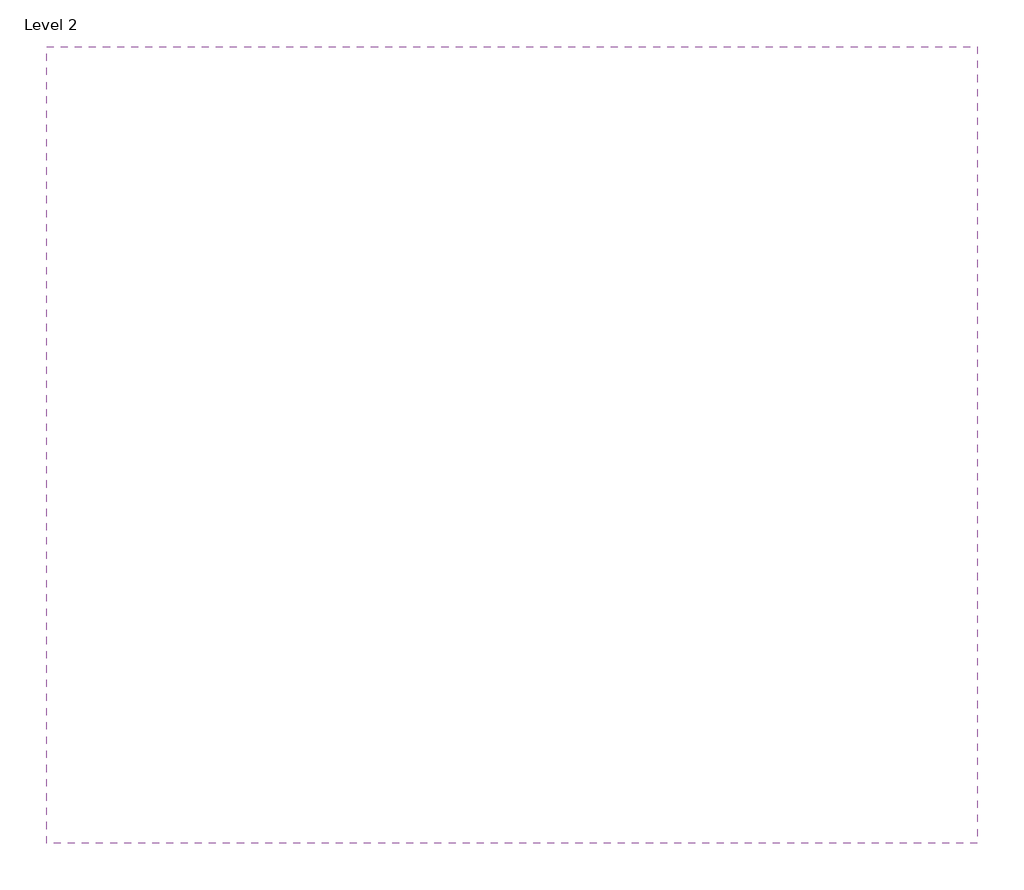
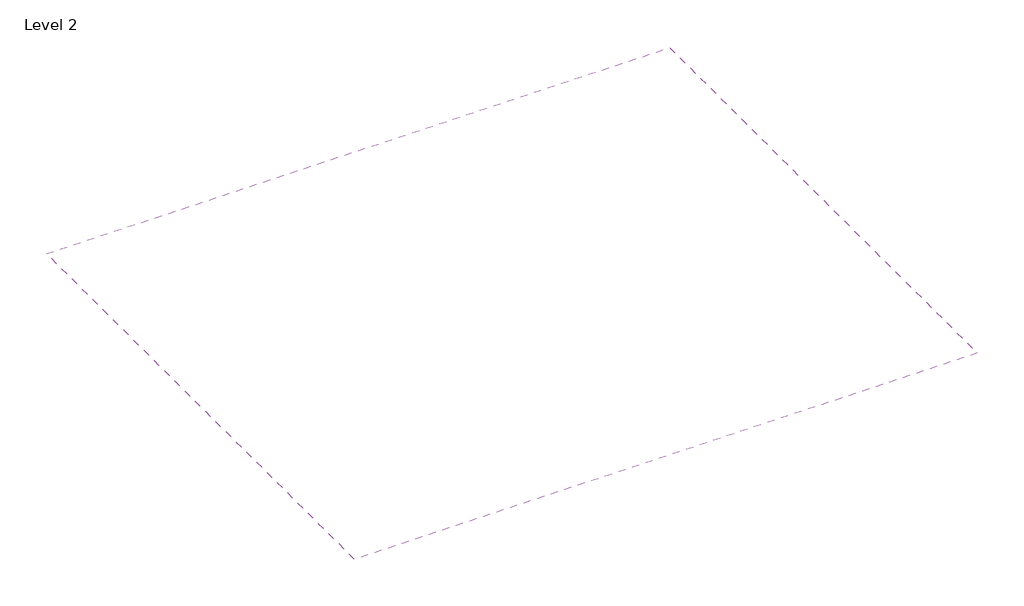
# One storey: 1 covering.
"""IFC4 building model written with IfcOpenShell, lengths in millimetres."""

from ifc_helpers import new_model, si_unit, frame, origin, place, context, project, spatial, polyline, outline, extrude, element, save

model = new_model("IFC4")

# Units and contexts
model_context = context("Model", 3, world=origin())
ifc_project = project(units=[si_unit("LENGTHUNIT", "METRE", prefix="MILLI")], contexts=[model_context])

# Site, building, storey
site = spatial("IfcSite", under=ifc_project)
building = spatial("IfcBuilding", under=site)
storey = spatial("IfcBuildingStorey", under=building, Name="Level 2", Elevation=4000.0)

# Covering
placement = place(None, origin())
element("IfcCovering", 1, ObjectType="Plain", at=placement, inside=storey, context=model_context, shape_type="SweptSolid", body=[
    extrude(outline(polyline([(15935.7992148, 14945.1145885), (15935.7992148, -12954.8854115), (-16664.2007852, -12954.8854115), (-16664.2007852, 14945.1145885), (15935.7992148, 14945.1145885)])), frame((0.0, 0.0, 6600.0), z_axis=(0.0, 0.0, 1.0), x_axis=(1.0, 0.0, 0.0)), (0.0, 0.0, 1.0), 57.0),
])

save(model, "model.ifc")
